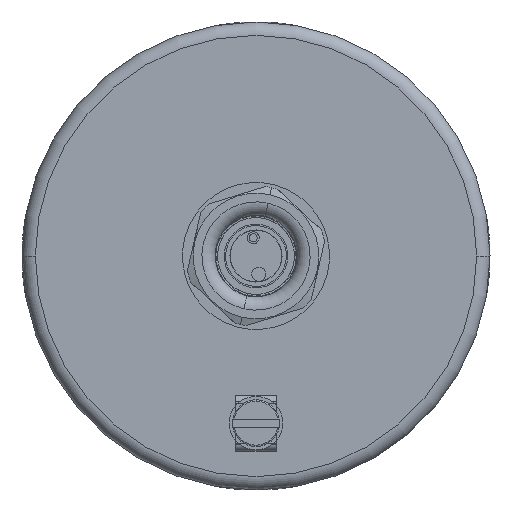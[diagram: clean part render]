
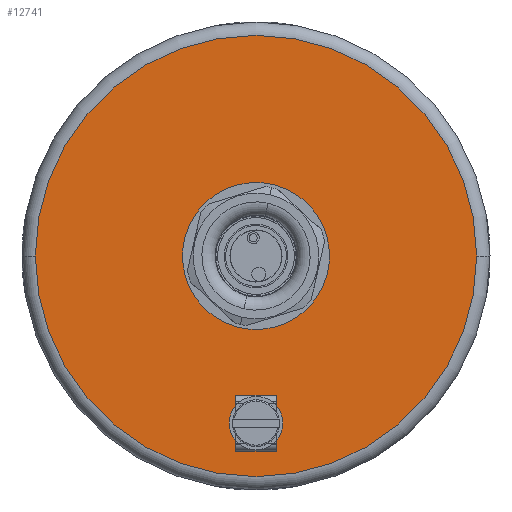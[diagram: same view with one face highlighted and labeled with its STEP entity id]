
A CAD part, left-side view. The second image highlights one B-rep face of the part: STEP entity #12741.
In plain terms, the highlighted planar face has unit normal (-1, 0, 0).
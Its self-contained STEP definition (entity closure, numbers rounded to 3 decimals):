
#5 = CARTESIAN_POINT ( 'NONE',  ( -70.2, 0., 0. ) ) ;
#9 = DIRECTION ( 'NONE',  ( -1., 0., 0. ) ) ;
#10 = DIRECTION ( 'NONE',  ( 0., -1., 0. ) ) ;
#484 = CARTESIAN_POINT ( 'NONE',  ( -70.2, 0., 0. ) ) ;
#485 = DIRECTION ( 'NONE',  ( -1., 0., 0. ) ) ;
#486 = DIRECTION ( 'NONE',  ( 0., -1., 0. ) ) ;
#1642 = CIRCLE ( 'NONE', #26148, 7.25 ) ;
#1706 = CIRCLE ( 'NONE', #26042, 33. ) ;
#1709 = CIRCLE ( 'NONE', #25949, 7.25 ) ;
#1722 = CIRCLE ( 'NONE', #26021, 2.7 ) ;
#1727 = CIRCLE ( 'NONE', #26007, 33. ) ;
#5427 = CARTESIAN_POINT ( 'NONE',  ( -70.2, 0., 0. ) ) ;
#5431 = DIRECTION ( 'NONE',  ( -1., 0., 0. ) ) ;
#5432 = DIRECTION ( 'NONE',  ( 0., -1., 0. ) ) ;
#5466 = CARTESIAN_POINT ( 'NONE',  ( -70.2, 0., 0. ) ) ;
#5482 = DIRECTION ( 'NONE',  ( -1., 0., 0. ) ) ;
#5483 = DIRECTION ( 'NONE',  ( 0., -1., 0. ) ) ;
#5580 = CARTESIAN_POINT ( 'NONE',  ( -70.2, 0., -25. ) ) ;
#5596 = DIRECTION ( 'NONE',  ( -1., 0., 0. ) ) ;
#5597 = DIRECTION ( 'NONE',  ( 0., -1., 0. ) ) ;
#7164 = VERTEX_POINT ( 'NONE', #19058 ) ;
#7255 = VERTEX_POINT ( 'NONE', #26994 ) ;
#7594 = VERTEX_POINT ( 'NONE', #27228 ) ;
#7723 = VERTEX_POINT ( 'NONE', #27321 ) ;
#8161 = VERTEX_POINT ( 'NONE', #27697 ) ;
#8239 = VERTEX_POINT ( 'NONE', #27771 ) ;
#8688 = ORIENTED_EDGE ( 'NONE', *, *, #19602, .T. ) ;
#8709 = ORIENTED_EDGE ( 'NONE', *, *, #19713, .F. ) ;
#8748 = ORIENTED_EDGE ( 'NONE', *, *, #19546, .F. ) ;
#8833 = ORIENTED_EDGE ( 'NONE', *, *, #19940, .F. ) ;
#8845 = ORIENTED_EDGE ( 'NONE', *, *, #19587, .F. ) ;
#8888 = ORIENTED_EDGE ( 'NONE', *, *, #19563, .T. ) ;
#12741 = ADVANCED_FACE ( 'NONE', ( #21676, #21681, #21690 ), #29752, .F. ) ;
#14560 = EDGE_LOOP ( 'NONE', ( #8709, #8748 ) ) ;
#14969 = EDGE_LOOP ( 'NONE', ( #8845, #8833 ) ) ;
#15098 = EDGE_LOOP ( 'NONE', ( #8888, #8688 ) ) ;
#19058 = CARTESIAN_POINT ( 'NONE',  ( -70.2, 7.25, 0. ) ) ;
#19546 = EDGE_CURVE ( 'NONE', #7164, #7723, #1709, .T. ) ;
#19563 = EDGE_CURVE ( 'NONE', #7255, #8161, #1706, .T. ) ;
#19587 = EDGE_CURVE ( 'NONE', #8239, #7594, #1722, .T. ) ;
#19602 = EDGE_CURVE ( 'NONE', #8161, #7255, #1727, .T. ) ;
#19713 = EDGE_CURVE ( 'NONE', #7723, #7164, #1642, .T. ) ;
#19940 = EDGE_CURVE ( 'NONE', #7594, #8239, #29319, .T. ) ;
#21676 = FACE_BOUND ( 'NONE', #14969, .T. ) ;
#21681 = FACE_BOUND ( 'NONE', #14560, .T. ) ;
#21690 = FACE_OUTER_BOUND ( 'NONE', #15098, .T. ) ;
#21692 = AXIS2_PLACEMENT_3D ( 'NONE', #29753, #29754, #29755 ) ;
#25582 = CARTESIAN_POINT ( 'NONE',  ( -70.2, 0., -25. ) ) ;
#25583 = DIRECTION ( 'NONE',  ( -1., 0., 0. ) ) ;
#25584 = DIRECTION ( 'NONE',  ( 0., -1., 0. ) ) ;
#25756 = AXIS2_PLACEMENT_3D ( 'NONE', #25582, #25583, #25584 ) ;
#25949 = AXIS2_PLACEMENT_3D ( 'NONE', #5427, #5431, #5432 ) ;
#26007 = AXIS2_PLACEMENT_3D ( 'NONE', #5, #9, #10 ) ;
#26021 = AXIS2_PLACEMENT_3D ( 'NONE', #5580, #5596, #5597 ) ;
#26042 = AXIS2_PLACEMENT_3D ( 'NONE', #5466, #5482, #5483 ) ;
#26148 = AXIS2_PLACEMENT_3D ( 'NONE', #484, #485, #486 ) ;
#26994 = CARTESIAN_POINT ( 'NONE',  ( -70.2, -33., 0. ) ) ;
#27228 = CARTESIAN_POINT ( 'NONE',  ( -70.2, 2.7, -25. ) ) ;
#27321 = CARTESIAN_POINT ( 'NONE',  ( -70.2, -7.25, 0. ) ) ;
#27697 = CARTESIAN_POINT ( 'NONE',  ( -70.2, 33., 0. ) ) ;
#27771 = CARTESIAN_POINT ( 'NONE',  ( -70.2, -2.7, -25. ) ) ;
#29319 = CIRCLE ( 'NONE', #25756, 2.7 ) ;
#29752 = PLANE ( 'NONE',  #21692 ) ;
#29753 = CARTESIAN_POINT ( 'NONE',  ( -70.2, 0., 0. ) ) ;
#29754 = DIRECTION ( 'NONE',  ( 1., 0., 0. ) ) ;
#29755 = DIRECTION ( 'NONE',  ( 0., 1., 0. ) ) ;
